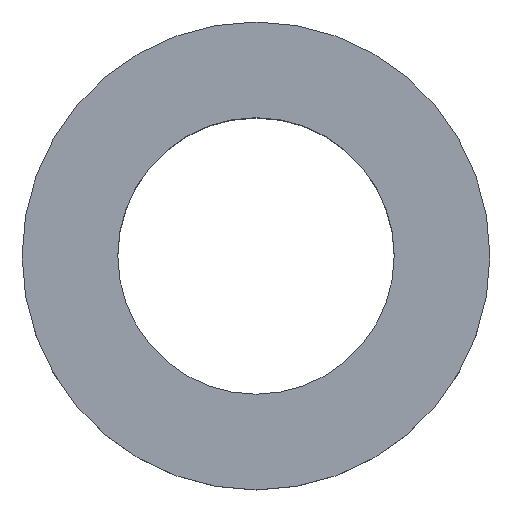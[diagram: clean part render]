
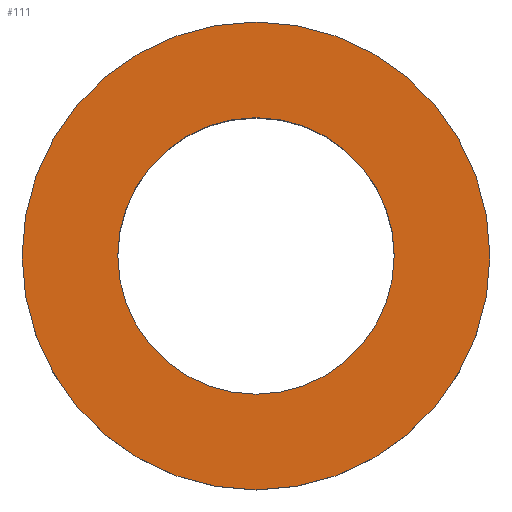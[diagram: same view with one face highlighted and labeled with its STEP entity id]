
A CAD part, top view. The second image highlights one B-rep face of the part: STEP entity #111.
In plain terms, the highlighted planar face has unit normal (0, 0, 1).
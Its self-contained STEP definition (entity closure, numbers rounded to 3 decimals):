
#98=PLANE('',#245);
#102=FACE_BOUND('',#133,.T.);
#103=FACE_BOUND('',#134,.T.);
#111=ADVANCED_FACE('',(#102,#103),#98,.T.);
#133=EDGE_LOOP('',(#171,#172));
#134=EDGE_LOOP('',(#173,#174));
#145=CIRCLE('',#239,6.5);
#146=CIRCLE('',#241,6.5);
#147=CIRCLE('',#243,11.);
#148=CIRCLE('',#244,11.);
#171=ORIENTED_EDGE('',*,*,#211,.F.);
#172=ORIENTED_EDGE('',*,*,#212,.F.);
#173=ORIENTED_EDGE('',*,*,#210,.T.);
#174=ORIENTED_EDGE('',*,*,#208,.T.);
#193=VERTEX_POINT('',#320);
#194=VERTEX_POINT('',#322);
#195=VERTEX_POINT('',#328);
#196=VERTEX_POINT('',#329);
#208=EDGE_CURVE('',#194,#193,#145,.T.);
#210=EDGE_CURVE('',#193,#194,#146,.T.);
#211=EDGE_CURVE('',#195,#196,#147,.T.);
#212=EDGE_CURVE('',#196,#195,#148,.T.);
#239=AXIS2_PLACEMENT_3D('',#321,#274,#275);
#241=AXIS2_PLACEMENT_3D('',#325,#279,#280);
#243=AXIS2_PLACEMENT_3D('',#327,#283,#284);
#244=AXIS2_PLACEMENT_3D('',#330,#285,#286);
#245=AXIS2_PLACEMENT_3D('',#331,#287,#288);
#274=DIRECTION('',(0.,0.,-1.));
#275=DIRECTION('',(0.,1.,0.));
#279=DIRECTION('',(0.,0.,-1.));
#280=DIRECTION('',(0.,-1.,0.));
#283=DIRECTION('',(0.,0.,-1.));
#284=DIRECTION('',(0.,1.,0.));
#285=DIRECTION('',(0.,0.,-1.));
#286=DIRECTION('',(0.,-1.,0.));
#287=DIRECTION('',(0.,0.,1.));
#288=DIRECTION('',(0.,-1.,0.));
#320=CARTESIAN_POINT('',(-6.5,0.,3.));
#321=CARTESIAN_POINT('',(0.,0.,3.));
#322=CARTESIAN_POINT('',(6.5,0.,3.));
#325=CARTESIAN_POINT('',(0.,0.,3.));
#327=CARTESIAN_POINT('',(0.,0.,3.));
#328=CARTESIAN_POINT('',(11.,0.,3.));
#329=CARTESIAN_POINT('',(-11.,0.,3.));
#330=CARTESIAN_POINT('',(0.,0.,3.));
#331=CARTESIAN_POINT('',(0.,0.,3.));
